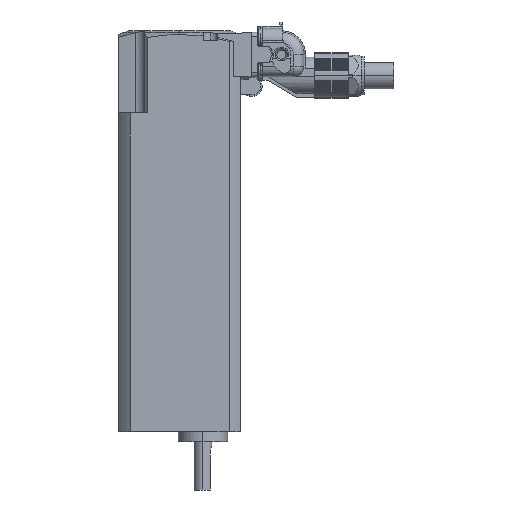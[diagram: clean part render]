
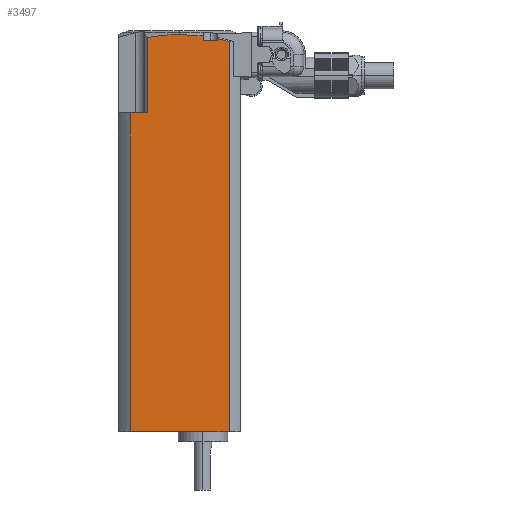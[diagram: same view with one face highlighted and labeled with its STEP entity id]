
A CAD part, left-side view. The second image highlights one B-rep face of the part: STEP entity #3497.
In plain terms, the highlighted planar face has unit normal (-1, 0, 0).
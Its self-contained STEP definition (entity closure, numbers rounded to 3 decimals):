
#138 = CARTESIAN_POINT ( 'NONE',  ( -21., -13.05, 104.35 ) ) ;
#235 = CARTESIAN_POINT ( 'NONE',  ( -21., -14.371, 104.066 ) ) ;
#469 = DIRECTION ( 'NONE',  ( 0., 0., -1. ) ) ;
#505 = ORIENTED_EDGE ( 'NONE', *, *, #13301, .T. ) ;
#539 = B_SPLINE_CURVE_WITH_KNOTS ( 'NONE', 3,
 ( #138, #235, #6107, #8899 ),
 .UNSPECIFIED., .F., .F.,
 ( 4, 4 ),
 ( 0.078, 0.082 ),
 .UNSPECIFIED. ) ;
#827 = DIRECTION ( 'NONE',  ( 0., 0., 1. ) ) ;
#831 = VECTOR ( 'NONE', #16258, 1000. ) ;
#1143 = EDGE_CURVE ( 'NONE', #14444, #7015, #7768, .T. ) ;
#2200 = CARTESIAN_POINT ( 'NONE',  ( -21., 1.847, 105.782 ) ) ;
#2327 = CARTESIAN_POINT ( 'NONE',  ( -21., -16.971, 0. ) ) ;
#2563 = VERTEX_POINT ( 'NONE', #17657 ) ;
#2625 = VERTEX_POINT ( 'NONE', #17753 ) ;
#2832 = CARTESIAN_POINT ( 'NONE',  ( -21., 0., 105.782 ) ) ;
#3127 = ORIENTED_EDGE ( 'NONE', *, *, #18150, .F. ) ;
#3410 = PLANE ( 'NONE',  #5578 ) ;
#3497 = ADVANCED_FACE ( 'NONE', ( #10465 ), #3410, .F. ) ;
#3654 = DIRECTION ( 'NONE',  ( 0., 0., -1. ) ) ;
#3874 = ORIENTED_EDGE ( 'NONE', *, *, #4285, .F. ) ;
#3951 = CARTESIAN_POINT ( 'NONE',  ( -21., -16.971, 103.389 ) ) ;
#4197 = VERTEX_POINT ( 'NONE', #7830 ) ;
#4223 = ORIENTED_EDGE ( 'NONE', *, *, #5482, .F. ) ;
#4271 = ORIENTED_EDGE ( 'NONE', *, *, #7025, .T. ) ;
#4285 = EDGE_CURVE ( 'NONE', #2563, #6259, #539, .T. ) ;
#4331 = LINE ( 'NONE', #16476, #12082 ) ;
#4470 = CARTESIAN_POINT ( 'NONE',  ( -21., -2.688, 105.782 ) ) ;
#4485 = VERTEX_POINT ( 'NONE', #13816 ) ;
#4715 = EDGE_CURVE ( 'NONE', #14444, #4485, #14102, .T. ) ;
#4766 = B_SPLINE_CURVE_WITH_KNOTS ( 'NONE', 3,
 ( #16656, #9615, #15214, #18181, #15499, #9425, #2200, #8173 ),
 .UNSPECIFIED., .F., .F.,
 ( 4, 2, 2, 4 ),
 ( 0.054, 0.057, 0.059, 0.065 ),
 .UNSPECIFIED. ) ;
#5097 = CARTESIAN_POINT ( 'NONE',  ( -21., -16.971, -30.5 ) ) ;
#5459 = CARTESIAN_POINT ( 'NONE',  ( -21., 16.971, 0. ) ) ;
#5469 = DIRECTION ( 'NONE',  ( 0., 0., 1. ) ) ;
#5482 = EDGE_CURVE ( 'NONE', #7015, #2563, #9980, .T. ) ;
#5578 = AXIS2_PLACEMENT_3D ( 'NONE', #6153, #16734, #469 ) ;
#6078 = LINE ( 'NONE', #11925, #17922 ) ;
#6107 = CARTESIAN_POINT ( 'NONE',  ( -21., -15.677, 103.744 ) ) ;
#6153 = CARTESIAN_POINT ( 'NONE',  ( -21., 21., 51.15 ) ) ;
#6259 = VERTEX_POINT ( 'NONE', #3951 ) ;
#6787 = VECTOR ( 'NONE', #827, 1000. ) ;
#7015 = VERTEX_POINT ( 'NONE', #7800 ) ;
#7019 = ORIENTED_EDGE ( 'NONE', *, *, #13547, .F. ) ;
#7025 = EDGE_CURVE ( 'NONE', #11903, #15855, #6078, .T. ) ;
#7082 = VERTEX_POINT ( 'NONE', #5097 ) ;
#7095 = ORIENTED_EDGE ( 'NONE', *, *, #4715, .T. ) ;
#7218 = EDGE_CURVE ( 'NONE', #15264, #4485, #7747, .T. ) ;
#7747 = B_SPLINE_CURVE_WITH_KNOTS ( 'NONE', 3,
 ( #2832, #4470, #10343, #17460 ),
 .UNSPECIFIED., .F., .F.,
 ( 4, 4 ),
 ( 0.065, 0.073 ),
 .UNSPECIFIED. ) ;
#7768 = LINE ( 'NONE', #9040, #831 ) ;
#7800 = CARTESIAN_POINT ( 'NONE',  ( -21., -13.05, 103.75 ) ) ;
#7830 = CARTESIAN_POINT ( 'NONE',  ( -21., 11.094, 104.741 ) ) ;
#8173 = CARTESIAN_POINT ( 'NONE',  ( -21., 0., 105.782 ) ) ;
#8251 = LINE ( 'NONE', #5459, #11445 ) ;
#8384 = VECTOR ( 'NONE', #3654, 1000. ) ;
#8666 = ORIENTED_EDGE ( 'NONE', *, *, #1143, .F. ) ;
#8899 = CARTESIAN_POINT ( 'NONE',  ( -21., -16.971, 103.389 ) ) ;
#9040 = CARTESIAN_POINT ( 'NONE',  ( -21., -8.05, 103.75 ) ) ;
#9425 = CARTESIAN_POINT ( 'NONE',  ( -21., 3.696, 105.693 ) ) ;
#9615 = CARTESIAN_POINT ( 'NONE',  ( -21., 10.178, 104.91 ) ) ;
#9761 = CARTESIAN_POINT ( 'NONE',  ( -21., -8.05, 103.75 ) ) ;
#9980 = LINE ( 'NONE', #11141, #12346 ) ;
#10229 = CARTESIAN_POINT ( 'NONE',  ( -21., -8.05, 103.75 ) ) ;
#10343 = CARTESIAN_POINT ( 'NONE',  ( -21., -5.371, 105.594 ) ) ;
#10465 = FACE_OUTER_BOUND ( 'NONE', #11585, .T. ) ;
#10767 = CARTESIAN_POINT ( 'NONE',  ( -21., 11.094, 78.85 ) ) ;
#11141 = CARTESIAN_POINT ( 'NONE',  ( -21., -13.05, 103.75 ) ) ;
#11315 = DIRECTION ( 'NONE',  ( 0., 0., 1. ) ) ;
#11445 = VECTOR ( 'NONE', #11315, 1000. ) ;
#11585 = EDGE_LOOP ( 'NONE', ( #13032, #505, #18738, #3874, #4223, #8666, #7095, #14773, #3127, #7019, #4271 ) ) ;
#11903 = VERTEX_POINT ( 'NONE', #10767 ) ;
#11925 = CARTESIAN_POINT ( 'NONE',  ( -21., 16.971, 78.85 ) ) ;
#12082 = VECTOR ( 'NONE', #13094, 1000. ) ;
#12346 = VECTOR ( 'NONE', #5469, 1000. ) ;
#12443 = LINE ( 'NONE', #2327, #8384 ) ;
#12875 = EDGE_CURVE ( 'NONE', #2625, #15855, #8251, .T. ) ;
#13032 = ORIENTED_EDGE ( 'NONE', *, *, #12875, .F. ) ;
#13082 = EDGE_CURVE ( 'NONE', #6259, #7082, #12443, .T. ) ;
#13094 = DIRECTION ( 'NONE',  ( 0., -1., 0. ) ) ;
#13301 = EDGE_CURVE ( 'NONE', #2625, #7082, #4331, .T. ) ;
#13467 = DIRECTION ( 'NONE',  ( 0., 1., 0. ) ) ;
#13547 = EDGE_CURVE ( 'NONE', #11903, #4197, #15225, .T. ) ;
#13763 = CARTESIAN_POINT ( 'NONE',  ( -21., 11.094, 64.841 ) ) ;
#13816 = CARTESIAN_POINT ( 'NONE',  ( -21., -8.05, 105.229 ) ) ;
#14102 = LINE ( 'NONE', #9761, #6787 ) ;
#14444 = VERTEX_POINT ( 'NONE', #10229 ) ;
#14773 = ORIENTED_EDGE ( 'NONE', *, *, #7218, .F. ) ;
#14870 = VECTOR ( 'NONE', #18197, 1000. ) ;
#15175 = CARTESIAN_POINT ( 'NONE',  ( -21., 0., 105.782 ) ) ;
#15214 = CARTESIAN_POINT ( 'NONE',  ( -21., 9.253, 105.061 ) ) ;
#15225 = LINE ( 'NONE', #13763, #14870 ) ;
#15264 = VERTEX_POINT ( 'NONE', #15175 ) ;
#15499 = CARTESIAN_POINT ( 'NONE',  ( -21., 6.473, 105.431 ) ) ;
#15855 = VERTEX_POINT ( 'NONE', #18780 ) ;
#16258 = DIRECTION ( 'NONE',  ( 0., -1., 0. ) ) ;
#16476 = CARTESIAN_POINT ( 'NONE',  ( -21., -21., -30.5 ) ) ;
#16656 = CARTESIAN_POINT ( 'NONE',  ( -21., 11.094, 104.741 ) ) ;
#16734 = DIRECTION ( 'NONE',  ( 1., 0., 0. ) ) ;
#17460 = CARTESIAN_POINT ( 'NONE',  ( -21., -8.05, 105.229 ) ) ;
#17657 = CARTESIAN_POINT ( 'NONE',  ( -21., -13.05, 104.35 ) ) ;
#17753 = CARTESIAN_POINT ( 'NONE',  ( -21., 16.971, -30.5 ) ) ;
#17922 = VECTOR ( 'NONE', #13467, 1000. ) ;
#18150 = EDGE_CURVE ( 'NONE', #4197, #15264, #4766, .T. ) ;
#18181 = CARTESIAN_POINT ( 'NONE',  ( -21., 7.399, 105.322 ) ) ;
#18197 = DIRECTION ( 'NONE',  ( 0., 0., 1. ) ) ;
#18738 = ORIENTED_EDGE ( 'NONE', *, *, #13082, .F. ) ;
#18780 = CARTESIAN_POINT ( 'NONE',  ( -21., 16.971, 78.85 ) ) ;
